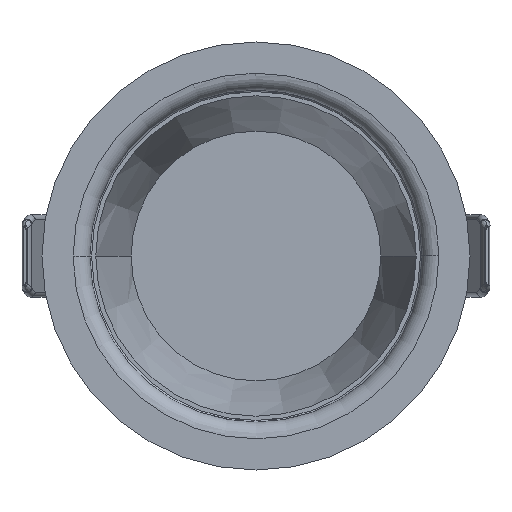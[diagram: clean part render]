
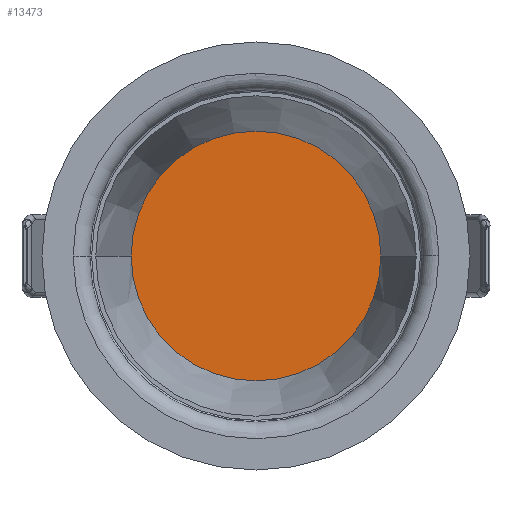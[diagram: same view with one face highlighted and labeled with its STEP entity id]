
A CAD part, front view. The second image highlights one B-rep face of the part: STEP entity #13473.
In plain terms, the highlighted planar face has unit normal (0, -1, 0).
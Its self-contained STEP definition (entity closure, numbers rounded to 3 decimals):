
#13426=CARTESIAN_POINT('',(0.,0.,0.));
#13427=DIRECTION('',(0.,1.,0.));
#13428=DIRECTION('',(1.,0.,0.));
#13429=AXIS2_PLACEMENT_3D('',#13426,#13427,#13428);
#13431=CARTESIAN_POINT('',(0.,0.,0.));
#13432=DIRECTION('',(0.,1.,0.));
#13433=DIRECTION('',(-1.,0.,0.));
#13434=AXIS2_PLACEMENT_3D('',#13431,#13432,#13433);
#13454=CARTESIAN_POINT('',(25.15,0.,0.));
#13455=CARTESIAN_POINT('',(-25.15,0.,0.));
#13456=VERTEX_POINT('',#13454);
#13457=VERTEX_POINT('',#13455);
#13462=CARTESIAN_POINT('',(0.,0.,0.));
#13463=DIRECTION('',(0.,1.,0.));
#13464=DIRECTION('',(1.,0.,0.));
#13465=AXIS2_PLACEMENT_3D('',#13462,#13463,#13464);
#13466=PLANE('',#13465);
#13468=ORIENTED_EDGE('',*,*,#13467,.T.);
#13470=ORIENTED_EDGE('',*,*,#13469,.T.);
#13471=EDGE_LOOP('',(#13468,#13470));
#13472=FACE_OUTER_BOUND('',#13471,.F.);
#13430=CIRCLE('',#13429,25.15);
#13435=CIRCLE('',#13434,25.15);
#13467=EDGE_CURVE('',#13456,#13457,#13430,.T.);
#13469=EDGE_CURVE('',#13457,#13456,#13435,.T.);
#13473=ADVANCED_FACE('',(#13472),#13466,.F.);
